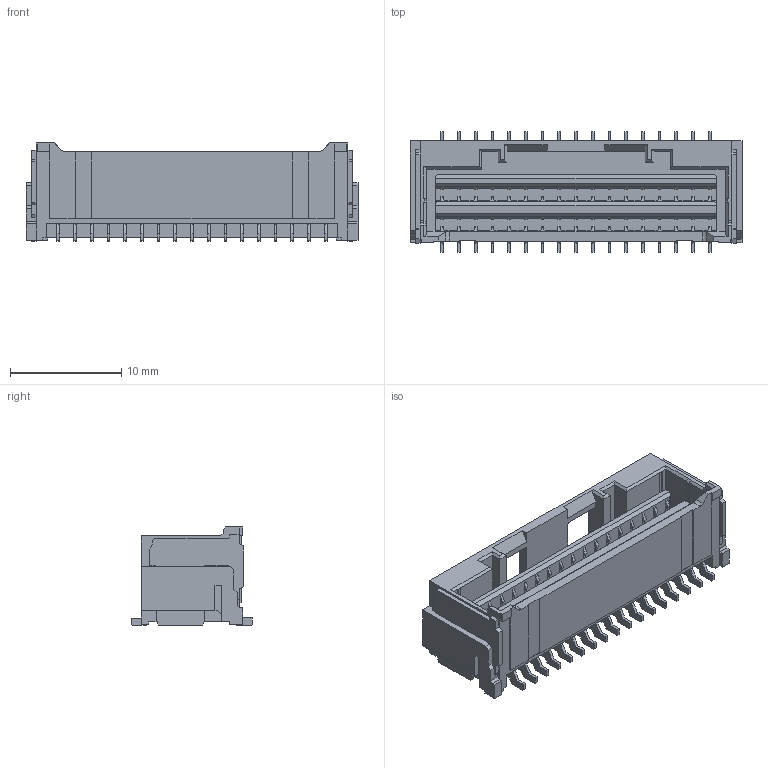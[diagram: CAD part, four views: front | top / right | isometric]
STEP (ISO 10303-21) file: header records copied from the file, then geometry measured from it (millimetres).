
FILE_DESCRIPTION((''),'2;1');
FILE_NAME('2132273410','2020-02-18T',('gga'),(''),'PRO/ENGINEER BY PARAMETRIC TECHNOLOGY CORPORATION, 2016010','PRO/ENGINEER BY PARAMETRIC TECHNOLOGY CORPORATION, 2016010','');
FILE_SCHEMA(('CONFIG_CONTROL_DESIGN'));
Length unit declared in the file: millimetre
Products named in the file (1): 2132273410
Bounding box: 29.8 x 10.85 x 8.8 mm (x, y, z)
Volume: 1201.4 mm3; surface area: 2090.7 mm2
Topology: 1 solids, 1 shells, 1357 faces, 4167 edges, 2814 vertices
Faces by surface type: plane 1154, cylinder 203
Entity records: 45820 total; most frequent: CARTESIAN_POINT 8259, ORIENTED_EDGE 8046, DIRECTION 7261, EDGE_CURVE 4023, VECTOR 3761, LINE 3761, VERTEX_POINT 2670, AXIS2_PLACEMENT_3D 1750
